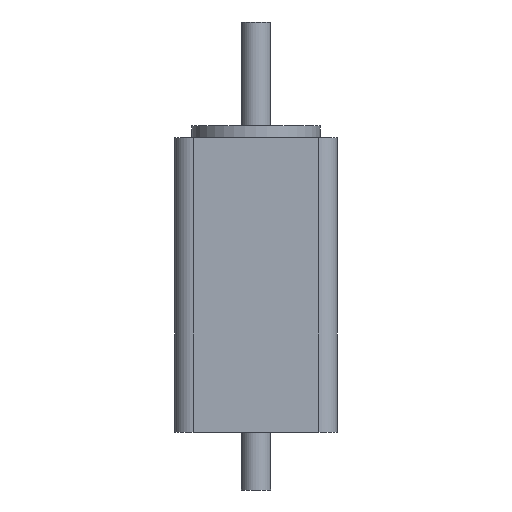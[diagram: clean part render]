
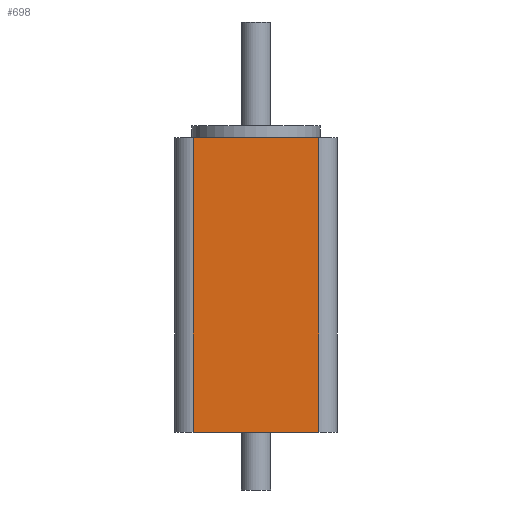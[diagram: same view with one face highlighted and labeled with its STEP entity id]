
A CAD part, front view. The second image highlights one B-rep face of the part: STEP entity #698.
In plain terms, the highlighted planar face has unit normal (0, -1, 0).
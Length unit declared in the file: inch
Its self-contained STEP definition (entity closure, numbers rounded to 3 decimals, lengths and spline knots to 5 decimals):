
#640=CARTESIAN_POINT('',(-0.425,-0.55,0.0));
#641=VERTEX_POINT('',#640);
#649=CARTESIAN_POINT('',(-0.425,-0.55,1.99));
#650=VERTEX_POINT('',#649);
#651=CARTESIAN_POINT('',(-0.425,-0.55,1.99));
#652=DIRECTION('',(0.0,0.0,-1.0));
#653=VECTOR('',#652,1.99);
#654=LINE('',#651,#653);
#655=EDGE_CURVE('',#650,#641,#654,.T.);
#668=CARTESIAN_POINT('',(-0.425,-0.55,1.99));
#669=DIRECTION('',(0.0,-1.0,0.0));
#670=DIRECTION('',(0.0,0.0,-1.0));
#671=AXIS2_PLACEMENT_3D('',#668,#669,#670);
#672=PLANE('',#671);
#673=CARTESIAN_POINT('',(0.425,-0.55,0.0));
#674=VERTEX_POINT('',#673);
#675=CARTESIAN_POINT('',(-0.425,-0.55,0.0));
#676=DIRECTION('',(1.0,0.0,0.0));
#677=VECTOR('',#676,0.85);
#678=LINE('',#675,#677);
#679=EDGE_CURVE('',#641,#674,#678,.T.);
#680=ORIENTED_EDGE('',*,*,#679,.T.);
#681=CARTESIAN_POINT('',(0.425,-0.55,1.99));
#682=VERTEX_POINT('',#681);
#683=CARTESIAN_POINT('',(0.425,-0.55,1.99));
#684=DIRECTION('',(0.0,0.0,-1.0));
#685=VECTOR('',#684,1.99);
#686=LINE('',#683,#685);
#687=EDGE_CURVE('',#682,#674,#686,.T.);
#688=ORIENTED_EDGE('',*,*,#687,.F.);
#689=CARTESIAN_POINT('',(-0.425,-0.55,1.99));
#690=DIRECTION('',(1.0,0.0,0.0));
#691=VECTOR('',#690,0.85);
#692=LINE('',#689,#691);
#693=EDGE_CURVE('',#650,#682,#692,.T.);
#694=ORIENTED_EDGE('',*,*,#693,.F.);
#695=ORIENTED_EDGE('',*,*,#655,.T.);
#696=EDGE_LOOP('',(#680,#688,#694,#695));
#697=FACE_OUTER_BOUND('',#696,.T.);
#698=ADVANCED_FACE('',(#697),#672,.T.);
